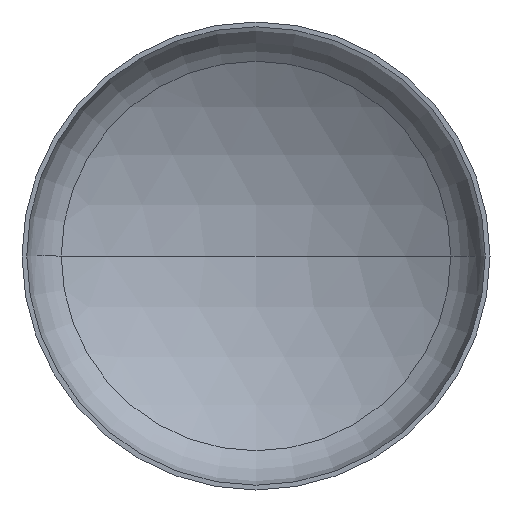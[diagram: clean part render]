
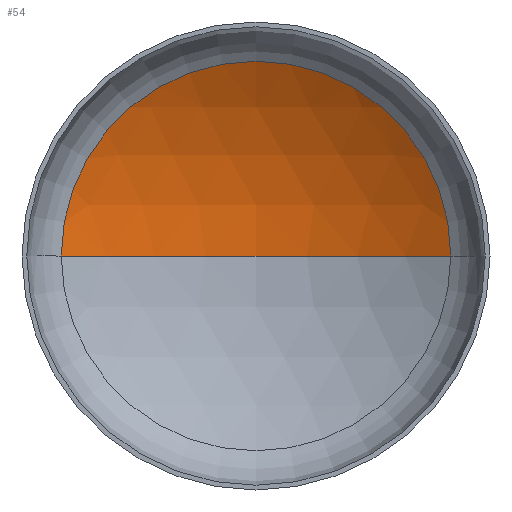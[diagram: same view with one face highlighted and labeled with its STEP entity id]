
A CAD part, front view. The second image highlights one B-rep face of the part: STEP entity #54.
In plain terms, the highlighted spherical face has radius 4400 mm.
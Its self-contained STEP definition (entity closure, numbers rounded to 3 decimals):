
#4 = VERTEX_POINT ( 'NONE', #208 ) ;
#17 = DIRECTION ( 'NONE',  ( -1., 0., 0. ) ) ;
#34 = ORIENTED_EDGE ( 'NONE', *, *, #306, .T. ) ;
#38 = ORIENTED_EDGE ( 'NONE', *, *, #323, .F. ) ;
#42 = VERTEX_POINT ( 'NONE', #343 ) ;
#54 = ADVANCED_FACE ( 'NONE', ( #136 ), #301, .F. ) ;
#78 = EDGE_LOOP ( 'NONE', ( #38, #34, #197 ) ) ;
#102 = DIRECTION ( 'NONE',  ( 0., -1., 0. ) ) ;
#107 = VERTEX_POINT ( 'NONE', #322 ) ;
#135 = EDGE_CURVE ( 'NONE', #4, #42, #146, .T. ) ;
#136 = FACE_OUTER_BOUND ( 'NONE', #78, .T. ) ;
#146 = CIRCLE ( 'NONE', #393, 2288.495 ) ;
#156 = DIRECTION ( 'NONE',  ( 1., 0., 0. ) ) ;
#165 = CARTESIAN_POINT ( 'NONE',  ( 0., 841.713, 0. ) ) ;
#180 = CIRCLE ( 'NONE', #388, 4400. ) ;
#188 = CARTESIAN_POINT ( 'NONE',  ( 0., -2916.318, 0. ) ) ;
#191 = DIRECTION ( 'NONE',  ( -1., 0., 0. ) ) ;
#192 = DIRECTION ( 'NONE',  ( 0., 0., 1. ) ) ;
#197 = ORIENTED_EDGE ( 'NONE', *, *, #135, .T. ) ;
#208 = CARTESIAN_POINT ( 'NONE',  ( 2288.495, 841.713, 0. ) ) ;
#211 = DIRECTION ( 'NONE',  ( 0., 0., -1. ) ) ;
#239 = CIRCLE ( 'NONE', #372, 4400. ) ;
#244 = DIRECTION ( 'NONE',  ( 0., 0., -1. ) ) ;
#301 = SPHERICAL_SURFACE ( 'NONE', #328, 4400. ) ;
#306 = EDGE_CURVE ( 'NONE', #107, #4, #180, .T. ) ;
#322 = CARTESIAN_POINT ( 'NONE',  ( 0., 1483.682, 0. ) ) ;
#323 = EDGE_CURVE ( 'NONE', #107, #42, #239, .T. ) ;
#328 = AXIS2_PLACEMENT_3D ( 'NONE', #188, #211, #191 ) ;
#343 = CARTESIAN_POINT ( 'NONE',  ( -2288.495, 841.713, 0. ) ) ;
#350 = CARTESIAN_POINT ( 'NONE',  ( 0., -2916.318, 0. ) ) ;
#372 = AXIS2_PLACEMENT_3D ( 'NONE', #350, #192, #376 ) ;
#376 = DIRECTION ( 'NONE',  ( 1., 0., 0. ) ) ;
#388 = AXIS2_PLACEMENT_3D ( 'NONE', #398, #244, #17 ) ;
#393 = AXIS2_PLACEMENT_3D ( 'NONE', #165, #102, #156 ) ;
#398 = CARTESIAN_POINT ( 'NONE',  ( 0., -2916.318, 0. ) ) ;
